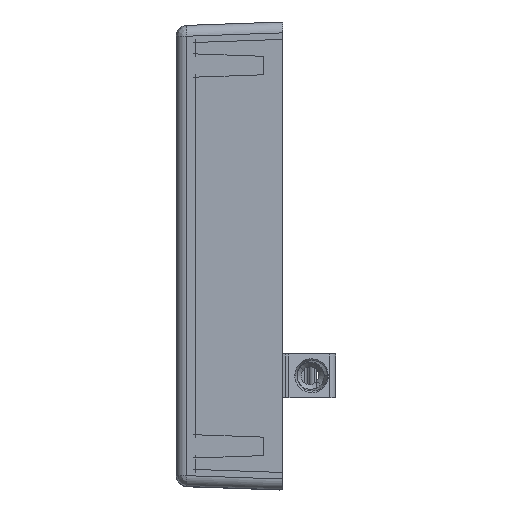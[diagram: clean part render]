
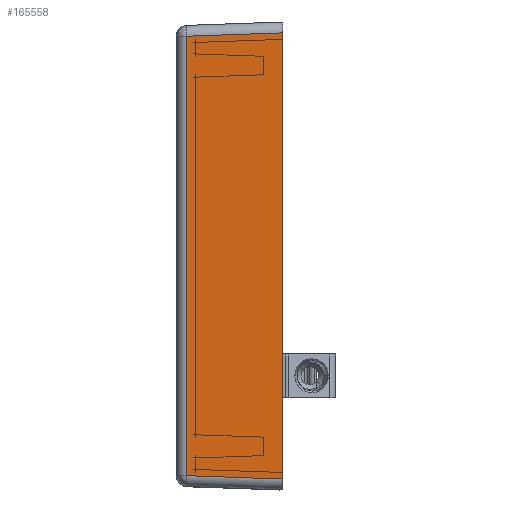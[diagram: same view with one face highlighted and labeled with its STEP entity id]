
A CAD part, left-side view. The second image highlights one B-rep face of the part: STEP entity #165558.
In plain terms, the highlighted planar face has unit normal (-0.999, 0.035, 0) as drawn and (-0.999, 0, 0.035) by its records, which use the part's own axes.
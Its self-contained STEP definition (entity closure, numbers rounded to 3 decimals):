
#325 = VECTOR ( 'NONE', #20242, 1000. ) ;
#2072 = EDGE_CURVE ( 'NONE', #40003, #139769, #109831, .T. ) ;
#4075 = CARTESIAN_POINT ( 'NONE',  ( -144.655, 15.847, -5.79 ) ) ;
#4645 = ORIENTED_EDGE ( 'NONE', *, *, #55339, .F. ) ;
#8976 = CARTESIAN_POINT ( 'NONE',  ( -144.347, -20.203, 3.035 ) ) ;
#14451 = DIRECTION ( 'NONE',  ( 0.035, -0.035, 0.999 ) ) ;
#17684 = DIRECTION ( 'NONE',  ( -0.035, 0., -0.999 ) ) ;
#18791 = VERTEX_POINT ( 'NONE', #75150 ) ;
#19647 = ORIENTED_EDGE ( 'NONE', *, *, #2072, .F. ) ;
#20242 = DIRECTION ( 'NONE',  ( -0.035, -0.035, -0.999 ) ) ;
#20294 = CARTESIAN_POINT ( 'NONE',  ( -144.656, -20.511, -5.8 ) ) ;
#30869 = PLANE ( 'NONE',  #145584 ) ;
#40003 = VERTEX_POINT ( 'NONE', #119364 ) ;
#47346 = EDGE_CURVE ( 'NONE', #18791, #40003, #50200, .T. ) ;
#50200 = LINE ( 'NONE', #123145, #82147 ) ;
#55339 = EDGE_CURVE ( 'NONE', #139769, #102813, #144714, .T. ) ;
#75150 = CARTESIAN_POINT ( 'NONE',  ( -144.656, 20.491, -5.8 ) ) ;
#80198 = LINE ( 'NONE', #148224, #147921 ) ;
#80976 = ORIENTED_EDGE ( 'NONE', *, *, #47346, .F. ) ;
#82147 = VECTOR ( 'NONE', #14451, 1000. ) ;
#99208 = DIRECTION ( 'NONE',  ( 0.999, 0., -0.035 ) ) ;
#102813 = VERTEX_POINT ( 'NONE', #20294 ) ;
#105604 = VECTOR ( 'NONE', #116127, 1000. ) ;
#109831 = LINE ( 'NONE', #115912, #105604 ) ;
#115912 = CARTESIAN_POINT ( 'NONE',  ( -144.347, 15.847, 3.035 ) ) ;
#116127 = DIRECTION ( 'NONE',  ( 0., -1., 0. ) ) ;
#119364 = CARTESIAN_POINT ( 'NONE',  ( -144.347, 20.183, 3.035 ) ) ;
#123145 = CARTESIAN_POINT ( 'NONE',  ( -144.656, 20.491, -5.8 ) ) ;
#126041 = EDGE_LOOP ( 'NONE', ( #19647, #80976, #167782, #4645 ) ) ;
#128505 = FACE_OUTER_BOUND ( 'NONE', #126041, .T. ) ;
#139769 = VERTEX_POINT ( 'NONE', #8976 ) ;
#142666 = EDGE_CURVE ( 'NONE', #102813, #18791, #80198, .T. ) ;
#144714 = LINE ( 'NONE', #169053, #325 ) ;
#145584 = AXIS2_PLACEMENT_3D ( 'NONE', #4075, #99208, #17684 ) ;
#147921 = VECTOR ( 'NONE', #161752, 1000. ) ;
#148224 = CARTESIAN_POINT ( 'NONE',  ( -144.656, 15.847, -5.8 ) ) ;
#161752 = DIRECTION ( 'NONE',  ( 0., 1., 0. ) ) ;
#165558 = ADVANCED_FACE ( 'NONE', ( #128505 ), #30869, .F. ) ;
#167782 = ORIENTED_EDGE ( 'NONE', *, *, #142666, .F. ) ;
#169053 = CARTESIAN_POINT ( 'NONE',  ( -144.347, -20.203, 3.035 ) ) ;
